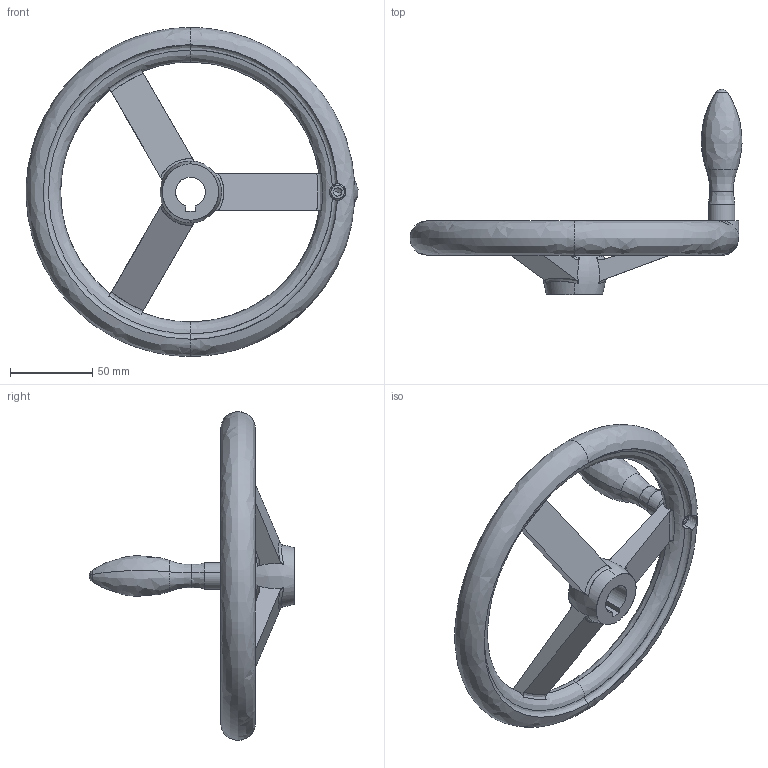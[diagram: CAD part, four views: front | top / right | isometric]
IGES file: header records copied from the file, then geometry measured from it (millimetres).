
Start section: SolidWorks IGES file using analytic representation for surfaces
Global section: file name: C:\Users\IanO\Desktop\Temp File\Process pending\77120_v2\77120_v2_20171108_IGES\77120.W0530.igs; native system: SolidWorks 2017; preprocessor: SolidWorks 2017; author: IanO; date: 171108.083916; units: millimetre
Bounding box: 201.87 x 125 x 200 mm (x, y, z)
Surface area: 60463.8 mm2 (no closed solid volume)
Topology: 0 solids, 0 shells, 117 faces, 1576 edges, 1569 vertices
Faces by surface type: bspline 68, revolution 49
